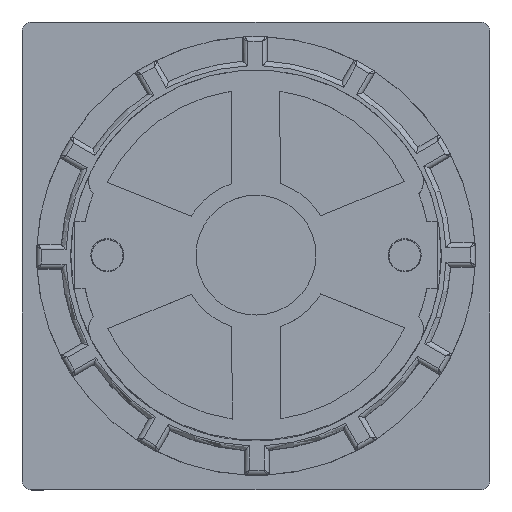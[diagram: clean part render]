
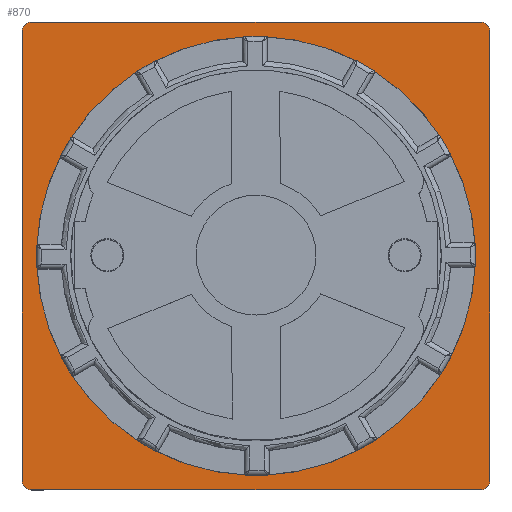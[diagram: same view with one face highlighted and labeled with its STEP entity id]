
A CAD part, top view. The second image highlights one B-rep face of the part: STEP entity #870.
In plain terms, the highlighted planar face has unit normal (0, 0, 1).
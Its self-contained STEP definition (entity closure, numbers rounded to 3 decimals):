
#870=ADVANCED_FACE('',(#2991,#2992),#1252,.F.);
#1252=PLANE('',#8674);
#1684=LINE('',#13177,#2366);
#1685=LINE('',#13182,#2367);
#1686=LINE('',#13186,#2368);
#1687=LINE('',#13190,#2369);
#2366=VECTOR('',#9980,1.);
#2367=VECTOR('',#9983,1.);
#2368=VECTOR('',#9986,1.);
#2369=VECTOR('',#9989,1.);
#2991=FACE_BOUND('',#3275,.T.);
#2992=FACE_BOUND('',#3276,.T.);
#3275=EDGE_LOOP('',(#4413,#4414,#4415,#4416,#4417,#4418,#4419,#4420));
#3276=EDGE_LOOP('',(#4421));
#4413=ORIENTED_EDGE('',*,*,#7262,.F.);
#4414=ORIENTED_EDGE('',*,*,#7263,.F.);
#4415=ORIENTED_EDGE('',*,*,#7264,.F.);
#4416=ORIENTED_EDGE('',*,*,#7265,.F.);
#4417=ORIENTED_EDGE('',*,*,#7266,.F.);
#4418=ORIENTED_EDGE('',*,*,#7267,.F.);
#4419=ORIENTED_EDGE('',*,*,#7268,.F.);
#4420=ORIENTED_EDGE('',*,*,#7269,.F.);
#4421=ORIENTED_EDGE('',*,*,#7224,.T.);
#6300=VERTEX_POINT('',#13082);
#6318=VERTEX_POINT('',#13178);
#6319=VERTEX_POINT('',#13179);
#6320=VERTEX_POINT('',#13181);
#6321=VERTEX_POINT('',#13183);
#6322=VERTEX_POINT('',#13185);
#6323=VERTEX_POINT('',#13187);
#6324=VERTEX_POINT('',#13189);
#6325=VERTEX_POINT('',#13191);
#7224=EDGE_CURVE('',#6300,#6300,#8146,.T.);
#7262=EDGE_CURVE('',#6318,#6319,#1684,.T.);
#7263=EDGE_CURVE('',#6320,#6318,#8176,.T.);
#7264=EDGE_CURVE('',#6321,#6320,#1685,.T.);
#7265=EDGE_CURVE('',#6322,#6321,#8177,.T.);
#7266=EDGE_CURVE('',#6323,#6322,#1686,.T.);
#7267=EDGE_CURVE('',#6324,#6323,#8178,.T.);
#7268=EDGE_CURVE('',#6325,#6324,#1687,.T.);
#7269=EDGE_CURVE('',#6319,#6325,#8179,.T.);
#8146=CIRCLE('',#8632,22.5);
#8176=CIRCLE('',#8670,1.);
#8177=CIRCLE('',#8671,1.);
#8178=CIRCLE('',#8672,1.);
#8179=CIRCLE('',#8673,1.);
#8632=AXIS2_PLACEMENT_3D('',#13081,#9896,#9897);
#8670=AXIS2_PLACEMENT_3D('',#13180,#9981,#9982);
#8671=AXIS2_PLACEMENT_3D('',#13184,#9984,#9985);
#8672=AXIS2_PLACEMENT_3D('',#13188,#9987,#9988);
#8673=AXIS2_PLACEMENT_3D('',#13192,#9990,#9991);
#8674=AXIS2_PLACEMENT_3D('',#13193,#9992,#9993);
#9896=DIRECTION('',(0.,0.,-1.));
#9897=DIRECTION('',(0.,1.,0.));
#9980=DIRECTION('',(0.,1.,0.));
#9981=DIRECTION('',(0.,0.,-1.));
#9982=DIRECTION('',(1.,0.,0.));
#9983=DIRECTION('',(-1.,0.,0.));
#9984=DIRECTION('',(0.,0.,-1.));
#9985=DIRECTION('',(1.,0.,0.));
#9986=DIRECTION('',(0.,-1.,0.));
#9987=DIRECTION('',(0.,0.,-1.));
#9988=DIRECTION('',(1.,0.,0.));
#9989=DIRECTION('',(1.,0.,0.));
#9990=DIRECTION('',(0.,0.,-1.));
#9991=DIRECTION('',(1.,0.,0.));
#9992=DIRECTION('',(0.,0.,-1.));
#9993=DIRECTION('',(-1.,0.,0.));
#13081=CARTESIAN_POINT('',(0.,0.,-18.4));
#13082=CARTESIAN_POINT('',(0.,22.5,-18.4));
#13177=CARTESIAN_POINT('',(-24.,-23.,-18.4));
#13178=CARTESIAN_POINT('',(-24.,-23.,-18.4));
#13179=CARTESIAN_POINT('',(-24.,23.,-18.4));
#13180=CARTESIAN_POINT('',(-23.,-23.,-18.4));
#13181=CARTESIAN_POINT('',(-23.,-24.,-18.4));
#13182=CARTESIAN_POINT('',(23.,-24.,-18.4));
#13183=CARTESIAN_POINT('',(23.,-24.,-18.4));
#13184=CARTESIAN_POINT('',(23.,-23.,-18.4));
#13185=CARTESIAN_POINT('',(24.,-23.,-18.4));
#13186=CARTESIAN_POINT('',(24.,23.,-18.4));
#13187=CARTESIAN_POINT('',(24.,23.,-18.4));
#13188=CARTESIAN_POINT('',(23.,23.,-18.4));
#13189=CARTESIAN_POINT('',(23.,24.,-18.4));
#13190=CARTESIAN_POINT('',(-23.,24.,-18.4));
#13191=CARTESIAN_POINT('',(-23.,24.,-18.4));
#13192=CARTESIAN_POINT('',(-23.,23.,-18.4));
#13193=CARTESIAN_POINT('',(-23.,23.,-18.4));
